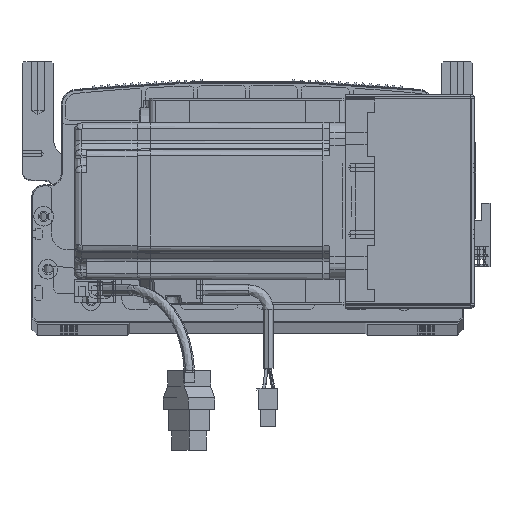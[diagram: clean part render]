
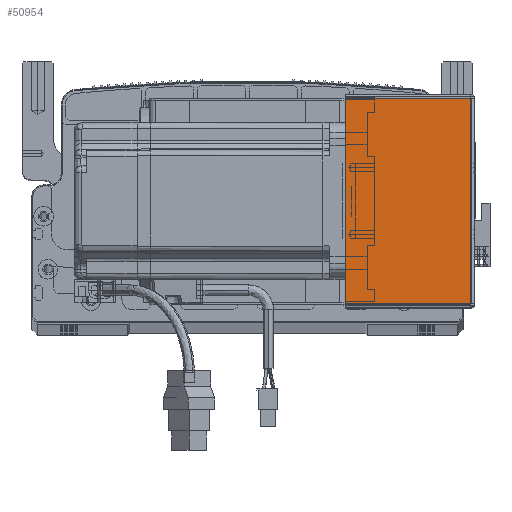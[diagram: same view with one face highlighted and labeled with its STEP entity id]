
A CAD part, top view. The second image highlights one B-rep face of the part: STEP entity #50954.
In plain terms, the highlighted planar face has unit normal (0, 0, 1) as drawn and (0, 0, -1) by its records, which use the part's own axes.
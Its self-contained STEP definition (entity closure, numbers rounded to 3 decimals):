
#1325 = FACE_OUTER_BOUND ( 'NONE', #71443, .T. ) ;
#4437 = CARTESIAN_POINT ( 'NONE',  ( 64.5, 0., -205.5 ) ) ;
#5442 = VERTEX_POINT ( 'NONE', #15954 ) ;
#5863 = LINE ( 'NONE', #97101, #48476 ) ;
#9908 = DIRECTION ( 'NONE',  ( 1., 0., 0. ) ) ;
#15954 = CARTESIAN_POINT ( 'NONE',  ( 0.737, 0.707, -205.5 ) ) ;
#19181 = LINE ( 'NONE', #82368, #95651 ) ;
#21131 = DIRECTION ( 'NONE',  ( 0., -1., 0. ) ) ;
#21181 = EDGE_CURVE ( 'NONE', #45738, #64805, #19181, .T. ) ;
#22845 = CARTESIAN_POINT ( 'NONE',  ( 0., 0., -205.5 ) ) ;
#25620 = CARTESIAN_POINT ( 'NONE',  ( 64.5, 105.293, -205.5 ) ) ;
#26280 = CARTESIAN_POINT ( 'NONE',  ( 64.5, 0.707, -205.5 ) ) ;
#26951 = DIRECTION ( 'NONE',  ( 0., -1., 0. ) ) ;
#28270 = LINE ( 'NONE', #80214, #85291 ) ;
#31054 = VERTEX_POINT ( 'NONE', #26280 ) ;
#32767 = LINE ( 'NONE', #4437, #76518 ) ;
#39595 = EDGE_CURVE ( 'NONE', #64805, #31054, #32767, .T. ) ;
#42993 = DIRECTION ( 'NONE',  ( 1., 0., 0. ) ) ;
#45738 = VERTEX_POINT ( 'NONE', #84081 ) ;
#47859 = ORIENTED_EDGE ( 'NONE', *, *, #66128, .F. ) ;
#48476 = VECTOR ( 'NONE', #21131, 1000. ) ;
#49332 = ORIENTED_EDGE ( 'NONE', *, *, #88594, .F. ) ;
#50954 = ADVANCED_FACE ( 'NONE', ( #1325 ), #99471, .F. ) ;
#64482 = ORIENTED_EDGE ( 'NONE', *, *, #21181, .T. ) ;
#64805 = VERTEX_POINT ( 'NONE', #25620 ) ;
#66128 = EDGE_CURVE ( 'NONE', #5442, #31054, #28270, .T. ) ;
#71443 = EDGE_LOOP ( 'NONE', ( #49332, #64482, #95526, #47859 ) ) ;
#76518 = VECTOR ( 'NONE', #26951, 1000. ) ;
#77171 = DIRECTION ( 'NONE',  ( 1., 0., 0. ) ) ;
#80214 = CARTESIAN_POINT ( 'NONE',  ( 0., 0.707, -205.5 ) ) ;
#82368 = CARTESIAN_POINT ( 'NONE',  ( 0., 105.293, -205.5 ) ) ;
#84081 = CARTESIAN_POINT ( 'NONE',  ( 0.737, 105.293, -205.5 ) ) ;
#84918 = DIRECTION ( 'NONE',  ( 0., 0., 1. ) ) ;
#85291 = VECTOR ( 'NONE', #9908, 1000. ) ;
#88594 = EDGE_CURVE ( 'NONE', #45738, #5442, #5863, .T. ) ;
#95526 = ORIENTED_EDGE ( 'NONE', *, *, #39595, .T. ) ;
#95651 = VECTOR ( 'NONE', #42993, 1000. ) ;
#97101 = CARTESIAN_POINT ( 'NONE',  ( 0.737, 0., -205.5 ) ) ;
#99471 = PLANE ( 'NONE',  #99895 ) ;
#99895 = AXIS2_PLACEMENT_3D ( 'NONE', #22845, #84918, #77171 ) ;
